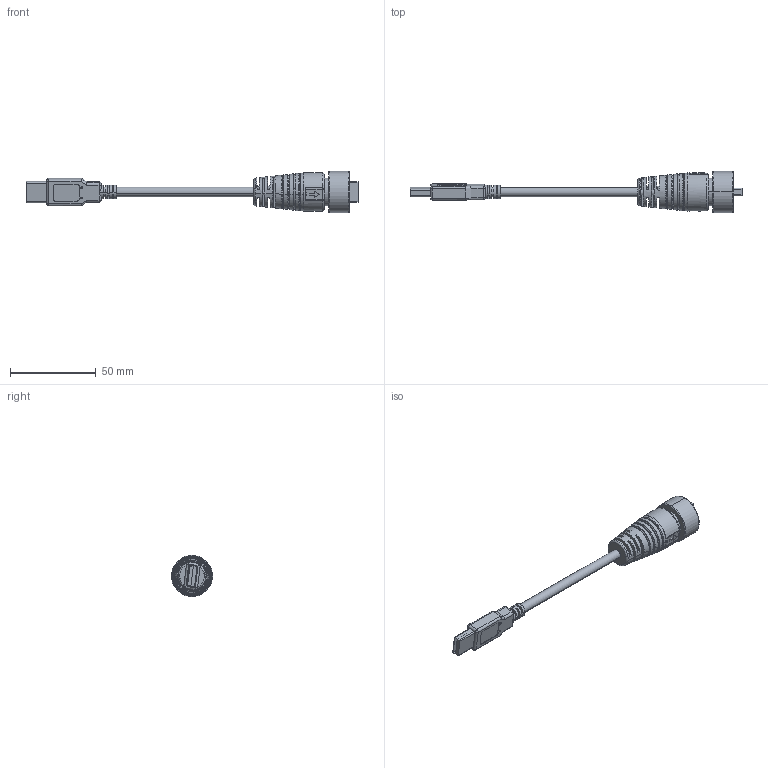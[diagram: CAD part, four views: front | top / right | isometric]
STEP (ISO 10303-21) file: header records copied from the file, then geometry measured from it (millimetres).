
FILE_DESCRIPTION (( 'STEP AP203' ), '1' );
FILE_NAME ('GT218320-02-XX.STEP', '2016-01-18T03:16:10', ( '' ), ( '' ), 'SwSTEP 2.0', 'SolidWorks 2012', '' );
FILE_SCHEMA (( 'CONFIG_CONTROL_DESIGN' ));
Length unit declared in the file: millimetre
Products named in the file (11): GT218320-02-XX; RR-AS; USB-A PLUG SHORT; AS; Cable 5.5; 66216-30010; GT116320-01-XX; 70116-37101; 67116-00110; MALE CONNECTOR(FRAM); 69116-34101
Assembly tree (10 placements, depth 3):
  GT218320-02-XX
    GT116320-01-XX
      69116-34101
      MALE CONNECTOR(FRAM)
      67116-00110
      70116-37101
    66216-30010
    Cable 5.5
    RR-AS
      AS
      USB-A PLUG SHORT
Bounding box: 193.4 x 24 x 24 mm (x, y, z)
Volume: 28770.4 mm3; surface area: 16025.1 mm2
Topology: 8 solids, 8 shells, 480 faces, 1233 edges, 786 vertices
Faces by surface type: plane 215, cylinder 111, bspline 92, cone 28, torus 26, sphere 8
Entity records: 22202 total; most frequent: CARTESIAN_POINT 10302, ORIENTED_EDGE 2450, DIRECTION 1941, EDGE_CURVE 1225, VERTEX_POINT 786, AXIS2_PLACEMENT_3D 653, LINE 635, VECTOR 635
